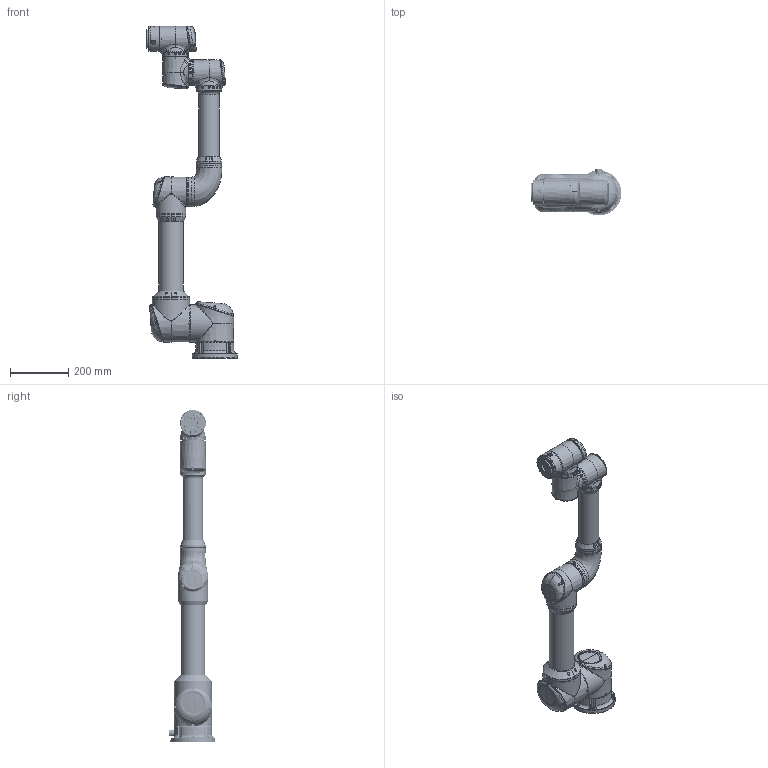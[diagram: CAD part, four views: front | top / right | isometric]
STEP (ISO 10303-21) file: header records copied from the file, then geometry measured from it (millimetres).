
FILE_DESCRIPTION(/* description */ (''),/* implementation_level */ '2;1');
FILE_NAME(/* name */ '【】TR6整机简化模型0330.stp',/* time_stamp */ '2026-03-30T16:21:00+08:00',/* author */ (''),/* organization */ (''),/* preprocessor_version */ 'ST-DEVELOPER v16',/* originating_system */ 'SIEMENS PLM Software NX 10.0',/* authorisation */ '');
FILE_SCHEMA (('AP203_CONFIGURATION_CONTROLLED_3D_DESIGN_OF_MECHANICAL_PARTS_AND_ASSEMBLIES_MIM_LF { 1 0 10303 403 2 1 2}'));
Length unit declared in the file: millimetre
Products named in the file (1): wuto6B141A37p9qr
Bounding box: 312.48 x 161.56 x 1143.81 mm (x, y, z)
Volume: 12381760.9 mm3; surface area: 797285.9 mm2
Topology: 9 solids, 205 shells, 4087 faces, 9645 edges, 6107 vertices
Faces by surface type: plane 1483, cylinder 1113, cone 517, bspline 497, torus 405, sphere 34, extrusion 34, revolution 4
Full cylindrical faces by diameter (mm): 0.8 x8, 2.05 x4, 2.5 x39, 2.7 x4, 2.9 x4, 3 x3, 3.2 x12, 3.3 x21, 3.4 x51, 4 x1, 4.3 x24, 4.5 x8, 4.7 x4, 5 x4, 5.5 x10, 6 x10, 6.7 x2, 7 x37, 8 x3, 9 x16, 12.2 x2, 14.2 x1, 16.5 x1, 31.5 x1, 61 x2, 63 x1, 65 x2, 69.5 x1, 71 x1, 73 x2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
Entity records: 191156 total; most frequent: CARTESIAN_POINT 108472, ORIENTED_EDGE 17334, DIRECTION 15290, EDGE_CURVE 8667, AXIS2_PLACEMENT_3D 5995, VERTEX_POINT 5769, EDGE_LOOP 4942, ADVANCED_FACE 4087
